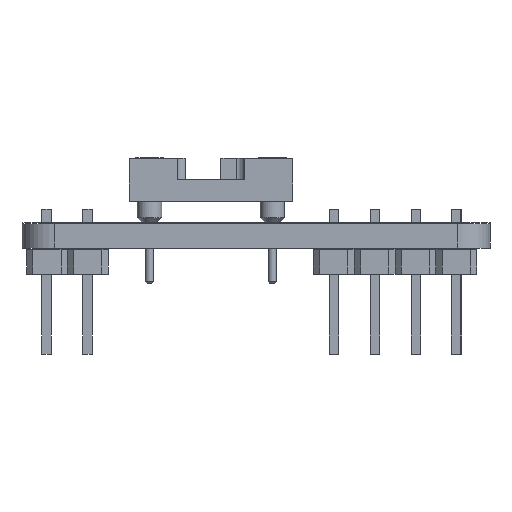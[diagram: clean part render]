
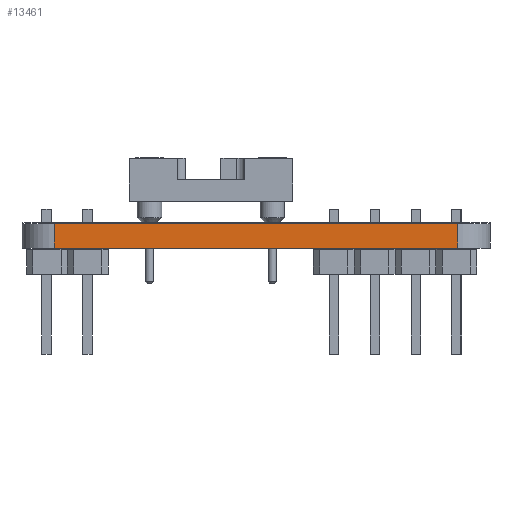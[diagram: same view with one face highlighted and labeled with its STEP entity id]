
A CAD part, front view. The second image highlights one B-rep face of the part: STEP entity #13461.
In plain terms, the highlighted planar face has unit normal (0, -1, 0).
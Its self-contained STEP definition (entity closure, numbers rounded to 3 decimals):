
#12098 = VERTEX_POINT('',#12099);
#12099 = CARTESIAN_POINT('',(140.151,-129.311,0.));
#12106 = EDGE_CURVE('',#12107,#12098,#12109,.T.);
#12107 = VERTEX_POINT('',#12108);
#12108 = CARTESIAN_POINT('',(165.183,-129.311,0.));
#12109 = LINE('',#12110,#12111);
#12110 = CARTESIAN_POINT('',(165.183,-129.311,0.));
#12111 = VECTOR('',#12112,1.);
#12112 = DIRECTION('',(-1.,0.,0.));
#12766 = VERTEX_POINT('',#12767);
#12767 = CARTESIAN_POINT('',(140.151,-129.311,1.51));
#12774 = EDGE_CURVE('',#12775,#12766,#12777,.T.);
#12775 = VERTEX_POINT('',#12776);
#12776 = CARTESIAN_POINT('',(165.183,-129.311,1.51));
#12777 = LINE('',#12778,#12779);
#12778 = CARTESIAN_POINT('',(165.183,-129.311,1.51));
#12779 = VECTOR('',#12780,1.);
#12780 = DIRECTION('',(-1.,0.,0.));
#13433 = EDGE_CURVE('',#12107,#12775,#13434,.T.);
#13434 = LINE('',#13435,#13436);
#13435 = CARTESIAN_POINT('',(165.183,-129.311,0.));
#13436 = VECTOR('',#13437,1.);
#13437 = DIRECTION('',(0.,0.,1.));
#13461 = ADVANCED_FACE('',(#13462),#13473,.T.);
#13462 = FACE_BOUND('',#13463,.T.);
#13463 = EDGE_LOOP('',(#13464,#13465,#13466,#13472));
#13464 = ORIENTED_EDGE('',*,*,#13433,.T.);
#13465 = ORIENTED_EDGE('',*,*,#12774,.T.);
#13466 = ORIENTED_EDGE('',*,*,#13467,.F.);
#13467 = EDGE_CURVE('',#12098,#12766,#13468,.T.);
#13468 = LINE('',#13469,#13470);
#13469 = CARTESIAN_POINT('',(140.151,-129.311,0.));
#13470 = VECTOR('',#13471,1.);
#13471 = DIRECTION('',(0.,0.,1.));
#13472 = ORIENTED_EDGE('',*,*,#12106,.F.);
#13473 = PLANE('',#13474);
#13474 = AXIS2_PLACEMENT_3D('',#13475,#13476,#13477);
#13475 = CARTESIAN_POINT('',(165.183,-129.311,0.));
#13476 = DIRECTION('',(0.,-1.,0.));
#13477 = DIRECTION('',(-1.,0.,0.));
